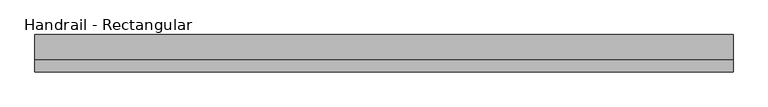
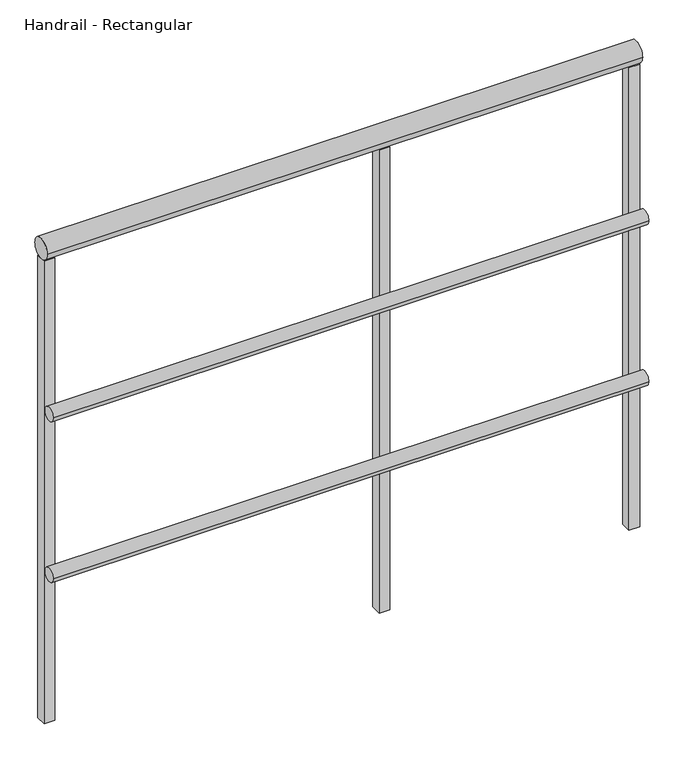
"""IFC4 building model written with IfcOpenShell, lengths in millimetres: railing geometry, Handrail - Rectangular."""

from ifc_helpers import new_model, si_unit, point, frame, frame_2d, origin, place, context, project, spatial, polyline, circle_curve, trimmed, segment, composite_curve, outline, extrude, source, transform, mapped, element, save


def handrail_rectangular_e3f0a00c(model_context):
    return source(origin(), model_context, "Body", "SweptSolid", [
        extrude(outline(composite_curve([segment(trimmed(circle_curve(frame_2d((-35578.5683133, 3644.9)), 12.7), [point((-35591.2683133, 3644.9))], [point((-35565.8683133, 3644.9))], False, "CARTESIAN"), True, "CONTINUOUS"), segment(trimmed(circle_curve(frame_2d((-35578.5683133, 3644.9)), 12.7), [point((-35565.8683133, 3644.9))], [point((-35591.2683133, 3644.9))], False, "CARTESIAN"), True, "CONTINUOUS")], self_intersect=False)), frame((1027.1410437, 0.0, 0.0), z_axis=(1.0, 0.0, 0.0), x_axis=(0.0, 1.0, 0.0)), (0.0, 0.0, 1.0), 1066.8),
        extrude(outline(composite_curve([segment(trimmed(circle_curve(frame_2d((-35578.5683133, 3340.1)), 12.7), [point((-35591.2683133, 3340.1))], [point((-35565.8683133, 3340.1))], False, "CARTESIAN"), True, "CONTINUOUS"), segment(trimmed(circle_curve(frame_2d((-35578.5683133, 3340.1)), 12.7), [point((-35565.8683133, 3340.1))], [point((-35591.2683133, 3340.1))], False, "CARTESIAN"), True, "CONTINUOUS")], self_intersect=False)), frame((1027.1410437, 0.0, 0.0), z_axis=(1.0, 0.0, 0.0), x_axis=(0.0, 1.0, 0.0)), (0.0, 0.0, 1.0), 1066.8),
        extrude(outline(composite_curve([segment(trimmed(circle_curve(frame_2d((-35553.1683133, 3943.35)), 19.05), [point((-35572.2183133, 3943.35))], [point((-35534.1183133, 3943.35))], False, "CARTESIAN"), True, "CONTINUOUS"), segment(trimmed(circle_curve(frame_2d((-35553.1683133, 3943.35)), 19.05), [point((-35534.1183133, 3943.35))], [point((-35572.2183133, 3943.35))], False, "CARTESIAN"), True, "CONTINUOUS")], self_intersect=False)), frame((1027.1410437, 0.0, 0.0), z_axis=(1.0, 0.0, 0.0), x_axis=(0.0, 1.0, 0.0)), (0.0, 0.0, 1.0), 1066.8),
        extrude(outline(polyline([(1627.2160437, -35543.6433133), (1646.2660437, -35543.6433133), (1646.2660437, -35562.6933133), (1627.2160437, -35562.6933133), (1627.2160437, -35543.6433133)])), frame((0.0, 0.0, 3048.0), z_axis=(0.0, 0.0, 1.0), x_axis=(1.0, 0.0, 0.0)), (0.0, 0.0, 1.0), 876.3),
        extrude(outline(polyline([(2074.8910437, -35543.6433133), (2093.9410437, -35543.6433133), (2093.9410437, -35562.6933133), (2074.8910437, -35562.6933133), (2074.8910437, -35543.6433133)])), frame((0.0, 0.0, 3048.0), z_axis=(0.0, 0.0, 1.0), x_axis=(1.0, 0.0, 0.0)), (0.0, 0.0, 1.0), 876.3),
        extrude(outline(polyline([(1027.1410437, -35543.6433133), (1046.1910437, -35543.6433133), (1046.1910437, -35562.6933133), (1027.1410437, -35562.6933133), (1027.1410437, -35543.6433133)])), frame((0.0, 0.0, 3048.0), z_axis=(0.0, 0.0, 1.0), x_axis=(1.0, 0.0, 0.0)), (0.0, 0.0, 1.0), 876.3),
    ])


if __name__ == "__main__":
    model = new_model("IFC4")
    model_context = context("Model", 3, world=origin())
    ifc_project = project(units=[si_unit("LENGTHUNIT", "METRE", prefix="MILLI")], contexts=[model_context])
    site = spatial("IfcSite", under=ifc_project)
    building = spatial("IfcBuilding", under=site)
    placement = place(None, origin())
    handrail_rectangular_shape = handrail_rectangular_e3f0a00c(model_context)
    element("IfcRailing", 1, ObjectType="Handrail - Rectangular", at=placement, inside=building, context=model_context, shape_type="MappedRepresentation", body=[
        mapped(handrail_rectangular_shape, transform((0.0, 0.0, 0.0), x_axis=(1.0, 0.0, 0.0), y_axis=(0.0, 1.0, 0.0), z_axis=(0.0, 0.0, 1.0))),
    ])
    save(model, "model.ifc")
